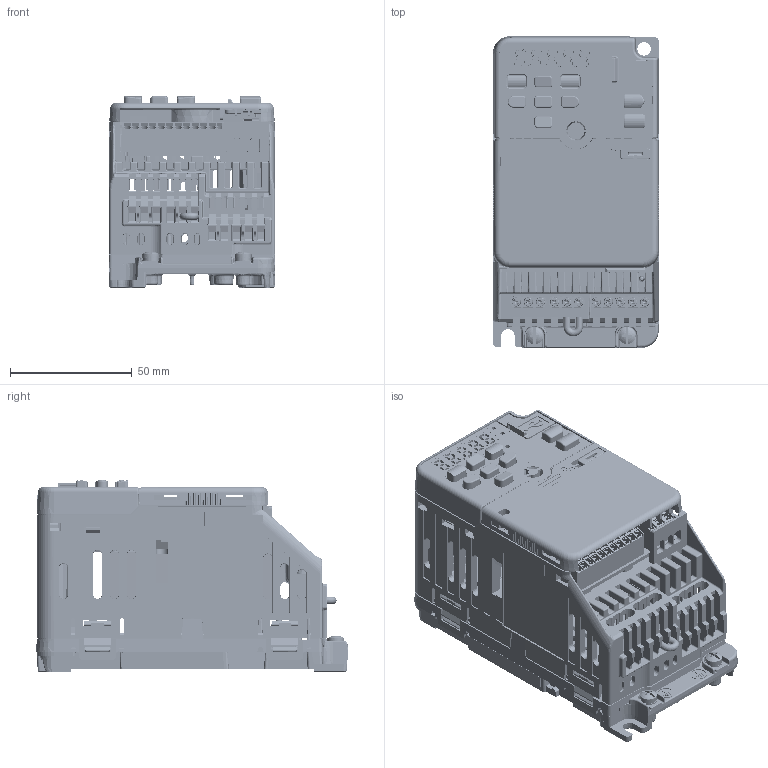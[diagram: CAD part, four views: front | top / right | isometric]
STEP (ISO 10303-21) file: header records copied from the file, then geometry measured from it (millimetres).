
FILE_DESCRIPTION((''),'2;1');
FILE_NAME('KIPR-GA50_Q_2002_ASM','2019-03-07T',('jam'),('YASKAWA ELECTRIC CORCORATION'),'PRO/ENGINEER BY PARAMETRIC TECHNOLOGY CORPORATION, 2015440','PRO/ENGINEER BY PARAMETRIC TECHNOLOGY CORPORATION, 2015440','');
FILE_SCHEMA(('CONFIG_CONTROL_DESIGN'));
Products named in the file (39): LAY_KIPR-GA50_Q_2002; 400-104-190; SCAT41159-101; 400-098-617; 400-098-640-01F-5_6PCB; MKDSN2P5_5; ETP760431_6PCB_ASM; 400-098-640-01F-5_5PCB_AF0; MKDSN2P5_3; ETP760411_5PCB_ASM; 400-098-618; 400-098-618_ASM; 400-104-023-01F-5; 95003-2884; B12B-PASK-1; 1734753-1_AF1; DHB-PD20-S131N-4P9_AF1; KARI_SPTA1_9-3P5_AF0; KARI_SPTA1_8-3P5_AF0; SPTA1_11-3P5_AF0; SPTA1_3-5P0_AF0; KTC750050-SXXXX_ASM; F354371; F354373; F354374; F354372; V-GEM_PWB2; 55265-0811_AF0; SM10B-SURS-TF_1; V-GIM_PWB_ASM2_ASM; GA500_KEYPAD_20180227_ASM; 400-104-186; 400-104-251; 400-115-297-001; 400-104-204_1; 400-104-204_2; 400-104-204_4; 400-104-204_3; KIPR-GA50_Q_2002_ASM
Assembly tree (41 placements, depth 4):
  KIPR-GA50_Q_2002_ASM
    LAY_KIPR-GA50_Q_2002
    400-104-190
    SCAT41159-101  x2
    400-098-617
    ETP760431_6PCB_ASM
      400-098-640-01F-5_6PCB
      MKDSN2P5_5
    ETP760411_5PCB_ASM
      400-098-640-01F-5_5PCB_AF0
      MKDSN2P5_3  x2
    400-098-618_ASM
      400-098-618
    KTC750050-SXXXX_ASM
      400-104-023-01F-5
      95003-2884
      B12B-PASK-1
      1734753-1_AF1
      DHB-PD20-S131N-4P9_AF1
      KARI_SPTA1_9-3P5_AF0
      KARI_SPTA1_8-3P5_AF0
      SPTA1_11-3P5_AF0
      SPTA1_3-5P0_AF0
    GA500_KEYPAD_20180227_ASM
      F354371
      F354373
      F354374
      F354372
      V-GIM_PWB_ASM2_ASM
        V-GEM_PWB2
        55265-0811_AF0
        SM10B-SURS-TF_1
    400-104-186
    400-104-251
    400-115-297-001
    400-104-204_1
    400-104-204_2
    400-104-204_4  x2
    400-104-204_3
Bounding box: 68.55 x 128.27 x 78.75 mm (x, y, z)
Volume: 160815 mm3; surface area: 181373.5 mm2
Topology: 34 solids, 34 shells, 13284 faces, 35823 edges, 22938 vertices
Faces by surface type: plane 9223, cylinder 2395, cone 724, bspline 498, torus 250, sphere 194
Entity records: 430832 total; most frequent: CARTESIAN_POINT 110258, ORIENTED_EDGE 69508, DIRECTION 61433, EDGE_CURVE 34754, VECTOR 26709, LINE 26709, VERTEX_POINT 22269, AXIS2_PLACEMENT_3D 17362
